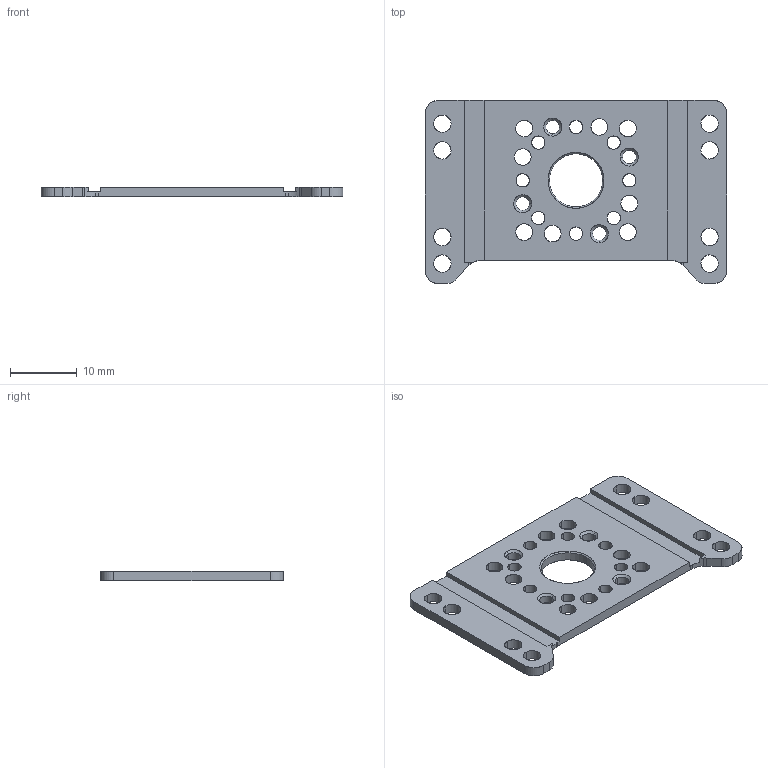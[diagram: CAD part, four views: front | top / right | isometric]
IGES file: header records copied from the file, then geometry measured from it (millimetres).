
Global section: file name: C:\Users\Knabe\Documents\Classes\8 Semester 8\DARwIn\Deliverables\DARwIn OP\DARwIn OP Part Files\CAD 2D\2D IGS\14_FR07_S101.igs; native system: NX V7.0; preprocessor: SIEMENS PLM Software NX 7.0; date: 20110525.175202; units: millimetre
Bounding box: 45.33 x 27.5 x 1.5 mm (x, y, z)
Surface area: 2528.3 mm2 (no closed solid volume)
Topology: 0 solids, 0 shells, 110 faces, 962 edges, 962 vertices
Faces by surface type: bspline 110
